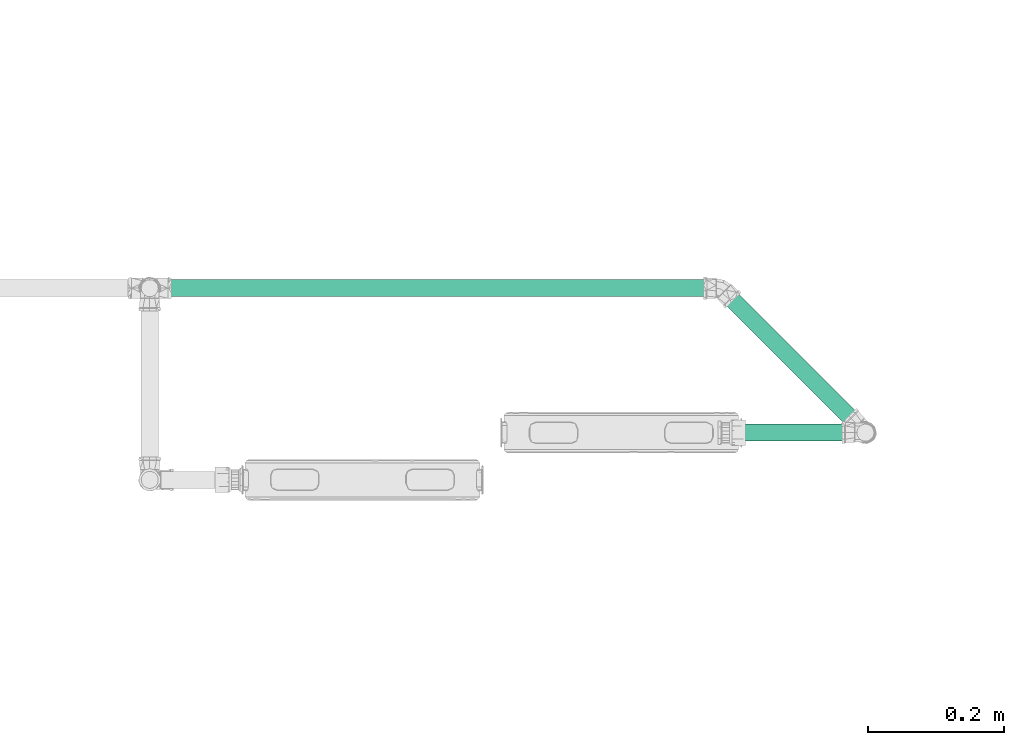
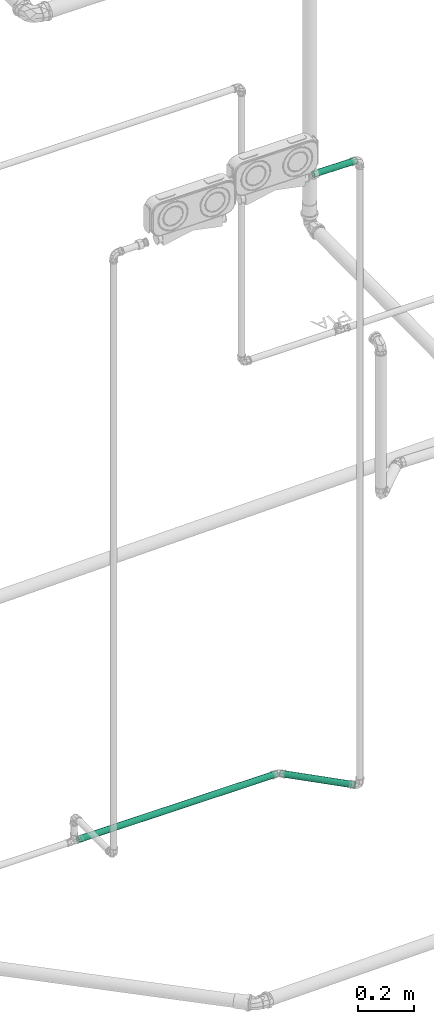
# One storey, part 238 of 589: 3 flow segments.
"""IFC2X3 building model written with IfcOpenShell, lengths in millimetres."""

import ifcopenshell
import ifcopenshell.guid

model = None  # the IFC model being written
_history = None  # IfcOwnerHistory: only IFC2X3 demands one
_inside = {}  # id of a spatial element -> (the spatial element, [elements in it])
_under = {}  # id of a project, library or spatial element -> (it, [spatial elements below it])
_declared = {}  # id of a project -> (the project, [libraries it declares])
_typed = {}  # id of a type object -> (the type object, [elements of that type])
_made_of = {}  # id of a material, layer set ... -> (it, [elements and type objects made of it])


def new_model(schema):
    """Start an empty IFC model of exactly this schema.

    Asked for "IFC4X3", IfcOpenShell would pick the latest addendum, in which some entities
    have other attributes; the version numbers below select the first issue.
    IFC2X3 requires an IfcOwnerHistory on every rooted entity: one is made here for all.
    """
    global model, _history
    if schema == "IFC4X3":
        model = ifcopenshell.file(schema_version=(4, 3, 0, 0))
    else:
        model = ifcopenshell.file(schema=schema)
    _inside.clear()
    _under.clear()
    _declared.clear()
    _typed.clear()
    _made_of.clear()
    _history = None
    if model.schema == "IFC2X3":
        org = make("IfcOrganization", Name="unknown")
        user = make(
            "IfcPersonAndOrganization",
            ThePerson=make("IfcPerson", FamilyName="unknown"),
            TheOrganization=org,
        )
        app = make(
            "IfcApplication",
            ApplicationDeveloper=org,
            Version="unknown",
            ApplicationFullName="unknown",
            ApplicationIdentifier="unknown",
        )
        _history = make(
            "IfcOwnerHistory",
            OwningUser=user,
            OwningApplication=app,
            ChangeAction="ADDED",
            CreationDate=0,
        )
    return model


def make(cls, **values):
    """One entity of the class cls with the attributes given. An attribute that is None is left unset."""
    return model.create_entity(
        cls, **{name: value for name, value in values.items() if value is not None}
    )


def entity(cls, *values):
    """Any entity or typed value of the class cls, its attributes in the order of the schema. None: left unset."""
    e = model.create_entity(cls)
    for i, value in enumerate(values):
        if value is not None:
            e[i] = value
    return e


def rooted(cls, **values):
    """An entity with a GlobalId (a new one), such as an element, a storey or a relation."""
    return make(cls, GlobalId=ifcopenshell.guid.new(), OwnerHistory=_history, **values)


def si_unit(unit_type, name, prefix=None):
    """IfcSIUnit, for example si_unit("LENGTHUNIT", "METRE", prefix="MILLI")."""
    return make("IfcSIUnit", UnitType=unit_type, Prefix=prefix, Name=name)


def converted_unit(unit_type, name, factor, base, dimensions=None, offset=None):
    """IfcConversionBasedUnit, such as the inch: factor (a typed value) times the base unit."""
    return make(
        "IfcConversionBasedUnit"
        if offset is None
        else "IfcConversionBasedUnitWithOffset",
        ConversionOffset=offset,
        Dimensions=None
        if dimensions is None
        else entity("IfcDimensionalExponents", *dimensions),
        UnitType=unit_type,
        Name=name,
        ConversionFactor=make(
            "IfcMeasureWithUnit", ValueComponent=factor, UnitComponent=base
        ),
    )


def derived_unit(unit_type, elements):
    """IfcDerivedUnit: a product of units, each with its exponent."""
    return make(
        "IfcDerivedUnit",
        Elements=[
            make("IfcDerivedUnitElement", Unit=unit, Exponent=power)
            for unit, power in elements
        ],
        UnitType=unit_type,
    )


def assignment(units):
    """IfcUnitAssignment: the units of a project."""
    return None if units is None else make("IfcUnitAssignment", Units=units)


def point(xyz):
    """IfcCartesianPoint."""
    return None if xyz is None else make("IfcCartesianPoint", Coordinates=xyz)


def direction(xyz):
    """IfcDirection."""
    return None if xyz is None else make("IfcDirection", DirectionRatios=xyz)


def frame(location, z_axis=None, x_axis=None):
    """IfcAxis2Placement3D, a coordinate frame: its origin and axes. An axis left out is left unset."""
    return make(
        "IfcAxis2Placement3D",
        Location=point(location),
        Axis=direction(z_axis),
        RefDirection=direction(x_axis),
    )


def frame_2d(location, x_axis=None):
    """IfcAxis2Placement2D, a coordinate frame in the plane: its origin and x axis."""
    return make(
        "IfcAxis2Placement2D", Location=point(location), RefDirection=direction(x_axis)
    )


def origin():
    """The frame at (0, 0, 0) with its axes left unset."""
    return frame((0.0, 0.0, 0.0))


def place(relative_to, where):
    """IfcLocalPlacement: puts the frame where relative to a parent placement (None: the world)."""
    return make(
        "IfcLocalPlacement", PlacementRelTo=relative_to, RelativePlacement=where
    )


def context(
    kind, dimensions, precision=None, world=None, true_north=None, identifier=None
):
    """IfcGeometricRepresentationContext, for example the 3D "Model" context."""
    return make(
        "IfcGeometricRepresentationContext",
        ContextIdentifier=identifier,
        ContextType=kind,
        CoordinateSpaceDimension=dimensions,
        Precision=precision,
        WorldCoordinateSystem=world,
        TrueNorth=true_north,
    )


def subcontext(parent, identifier, kind, view, scale=None):
    """IfcGeometricRepresentationSubContext, for example "Body" below "Model"."""
    return make(
        "IfcGeometricRepresentationSubContext",
        ContextIdentifier=identifier,
        ContextType=kind,
        ParentContext=parent,
        TargetScale=scale,
        TargetView=view,
    )


def project(units=None, contexts=None):
    """IfcProject with its units and contexts."""
    return rooted(
        "IfcProject",
        Name="project",
        RepresentationContexts=contexts,
        UnitsInContext=assignment(units),
    )


def spatial(cls, under=None, at=None, **own):
    """A site, building, storey or space (cls), placed at a placement, below another one or the project."""
    s = rooted(cls, ObjectPlacement=at, **own)
    if under is not None:
        _under.setdefault(under.id(), (under, []))[1].append(s)
    return s


def profile(cls, at=None, kind="AREA", **sizes):
    """A parametric profile (cls). Its sizes go by their IFC names, for example OverallWidth=200.0."""
    return make(cls, ProfileType=kind, Position=at, **sizes)


def circle(**sizes):
    """IfcCircleProfileDef."""
    return profile("IfcCircleProfileDef", **sizes)


def extrude(swept, where, along, depth):
    """IfcExtrudedAreaSolid: the profile swept, set in the frame where, extruded along a direction by depth."""
    return make(
        "IfcExtrudedAreaSolid",
        SweptArea=swept,
        Position=where,
        ExtrudedDirection=direction(along),
        Depth=depth,
    )


def shape(context_of_items, identifier, shape_type, items):
    """IfcShapeRepresentation: the items that make up one representation, for example the "Body"."""
    return make(
        "IfcShapeRepresentation",
        ContextOfItems=context_of_items,
        RepresentationIdentifier=identifier,
        RepresentationType=shape_type,
        Items=items,
    )


def made_of(thing, what):
    """Note that an element or type object is made of a material, layer set ...; save() writes the relation."""
    if what is not None:
        _made_of.setdefault(what.id(), (what, []))[1].append(thing)
    return thing


def type_object(cls, material=None, **own):
    """A type object (cls), such as IfcWallType, which elements share."""
    return made_of(rooted(cls, **own), material)


def element(
    cls,
    number,
    at=None,
    inside=None,
    cuts=None,
    type_object=None,
    material=None,
    context=None,
    identifier="Body",
    shape_type=None,
    held_by="IfcProductDefinitionShape",
    body=None,
    shapes=None,
    **own,
):
    """One element of the class cls, such as IfcWall. Its Tag is "e" and its number.

    at: its placement. inside: the storey or other place that contains it. cuts: it is an
    opening in that element (IfcRelVoidsElement). A single representation is given by context,
    identifier, shape_type and body (its items); several are given by shapes. held_by: the class
    of the entity that holds the representations. save() writes the other relations.
    """
    e = rooted(cls, Tag="e%d" % number, ObjectPlacement=at, **own)
    if body is not None:
        shapes = [shape(context, identifier, shape_type, body)]
    if shapes is not None:
        e.Representation = make(held_by, Representations=shapes)
    if inside is not None:
        _inside.setdefault(inside.id(), (inside, []))[1].append(e)
    if cuts is not None:
        rooted(
            "IfcRelVoidsElement", RelatingBuildingElement=cuts, RelatedOpeningElement=e
        )
    if type_object is not None:
        _typed.setdefault(type_object.id(), (type_object, []))[1].append(e)
    return made_of(e, material)


def aggregate(whole, parts):
    """IfcRelAggregates: a whole, such as a stair, and the parts it consists of."""
    return rooted("IfcRelAggregates", RelatingObject=whole, RelatedObjects=parts)


def save(model, path):
    """Write the relations noted so far, then the file.

    IfcRelAggregates (storeys below a building ...), IfcRelContainedInSpatialStructure (elements
    in a storey), IfcRelDefinesByType, IfcRelAssociatesMaterial and IfcRelDeclares: one each for
    every whole, place, type object, material and project.
    """
    for whole, parts in _under.values():
        aggregate(whole, parts)
    for where, things in _inside.values():
        rooted(
            "IfcRelContainedInSpatialStructure",
            RelatedElements=things,
            RelatingStructure=where,
        )
    for kind, things in _typed.values():
        rooted("IfcRelDefinesByType", RelatedObjects=things, RelatingType=kind)
    for what, things in _made_of.values():
        rooted("IfcRelAssociatesMaterial", RelatedObjects=things, RelatingMaterial=what)
    for by, libraries in _declared.values():
        rooted("IfcRelDeclares", RelatingContext=by, RelatedDefinitions=libraries)
    model.write(path)


model = new_model("IFC2X3")

# Units and contexts
model_context = context("Model", 3, precision=0.01, world=origin(), true_north=direction((6.123031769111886e-17, 1.0)))
body_context = subcontext(model_context, "Body", "Model", "MODEL_VIEW")
ifc_project = project(units=[si_unit("LENGTHUNIT", "METRE", prefix="MILLI"), si_unit("AREAUNIT", "SQUARE_METRE"), si_unit("VOLUMEUNIT", "CUBIC_METRE"), converted_unit("PLANEANGLEUNIT", "DEGREE", entity("IfcRatioMeasure", 0.017453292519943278), si_unit("PLANEANGLEUNIT", "RADIAN"), dimensions=[0, 0, 0, 0, 0, 0, 0]), si_unit("MASSUNIT", "GRAM", prefix="KILO"), derived_unit("MASSDENSITYUNIT", [(si_unit("MASSUNIT", "GRAM", prefix="KILO"), 1), (si_unit("LENGTHUNIT", "METRE"), -3)]), derived_unit("IONCONCENTRATIONUNIT", [(si_unit("MASSUNIT", "GRAM", prefix="KILO"), 1), (si_unit("LENGTHUNIT", "METRE"), -3)]), derived_unit("MOMENTOFINERTIAUNIT", [(si_unit("LENGTHUNIT", "METRE"), 4)]), si_unit("TIMEUNIT", "SECOND"), si_unit("FREQUENCYUNIT", "HERTZ"), si_unit("THERMODYNAMICTEMPERATUREUNIT", "DEGREE_CELSIUS"), derived_unit("THERMALTRANSMITTANCEUNIT", [(si_unit("MASSUNIT", "GRAM", prefix="KILO"), 1), (si_unit("THERMODYNAMICTEMPERATUREUNIT", "KELVIN"), -1), (si_unit("TIMEUNIT", "SECOND"), -3)]), derived_unit("THERMALCONDUCTANCEUNIT", [(si_unit("MASSUNIT", "GRAM", prefix="KILO"), 1), (si_unit("THERMODYNAMICTEMPERATUREUNIT", "KELVIN"), -1), (si_unit("TIMEUNIT", "SECOND"), -3), (si_unit("LENGTHUNIT", "METRE"), 1)]), derived_unit("VOLUMETRICFLOWRATEUNIT", [(si_unit("LENGTHUNIT", "METRE"), 3), (si_unit("TIMEUNIT", "SECOND"), -1)]), derived_unit("MASSFLOWRATEUNIT", [(si_unit("MASSUNIT", "GRAM", prefix="KILO"), 1), (si_unit("TIMEUNIT", "SECOND"), -1)]), derived_unit("ROTATIONALFREQUENCYUNIT", [(si_unit("TIMEUNIT", "SECOND"), -1)]), si_unit("ELECTRICCURRENTUNIT", "AMPERE"), si_unit("ELECTRICVOLTAGEUNIT", "VOLT"), si_unit("POWERUNIT", "WATT"), si_unit("FORCEUNIT", "NEWTON", prefix="KILO"), si_unit("ILLUMINANCEUNIT", "LUX"), si_unit("LUMINOUSFLUXUNIT", "LUMEN"), si_unit("LUMINOUSINTENSITYUNIT", "CANDELA"), derived_unit("USERDEFINED", [(si_unit("MASSUNIT", "GRAM", prefix="KILO"), -1), (si_unit("LENGTHUNIT", "METRE"), -2), (si_unit("TIMEUNIT", "SECOND"), 3), (si_unit("LUMINOUSFLUXUNIT", "LUMEN"), 1)]), derived_unit("USERDEFINED", [(si_unit("MASSUNIT", "GRAM", prefix="KILO"), 1), (si_unit("TIMEUNIT", "SECOND"), -3), (si_unit("LENGTHUNIT", "METRE"), 3), (si_unit("ELECTRICCURRENTUNIT", "AMPERE"), -2)]), derived_unit("SOUNDPOWERUNIT", [(si_unit("MASSUNIT", "GRAM", prefix="KILO"), 1), (si_unit("TIMEUNIT", "SECOND"), -3), (si_unit("LENGTHUNIT", "METRE"), 2)]), derived_unit("SOUNDPRESSUREUNIT", [(si_unit("MASSUNIT", "GRAM", prefix="KILO"), 1), (si_unit("LENGTHUNIT", "METRE"), -1), (si_unit("TIMEUNIT", "SECOND"), -2)]), derived_unit("LINEARVELOCITYUNIT", [(si_unit("LENGTHUNIT", "METRE"), 1), (si_unit("TIMEUNIT", "SECOND"), -1)]), si_unit("PRESSUREUNIT", "PASCAL"), derived_unit("USERDEFINED", [(si_unit("MASSUNIT", "GRAM", prefix="KILO"), 1), (si_unit("LENGTHUNIT", "METRE"), -2), (si_unit("TIMEUNIT", "SECOND"), -2)]), derived_unit("LINEARFORCEUNIT", [(si_unit("MASSUNIT", "GRAM", prefix="KILO"), 1), (si_unit("TIMEUNIT", "SECOND"), -2)]), derived_unit("PLANARFORCEUNIT", [(si_unit("MASSUNIT", "GRAM", prefix="KILO"), 1), (si_unit("LENGTHUNIT", "METRE"), -1), (si_unit("TIMEUNIT", "SECOND"), -2)]), derived_unit("SPECIFICHEATCAPACITYUNIT", [(si_unit("THERMODYNAMICTEMPERATUREUNIT", "KELVIN"), -1), (si_unit("LENGTHUNIT", "METRE"), 2), (si_unit("TIMEUNIT", "SECOND"), -2)]), derived_unit("HEATINGVALUEUNIT", [(si_unit("LENGTHUNIT", "METRE"), 2), (si_unit("TIMEUNIT", "SECOND"), -2)]), derived_unit("VAPORPERMEABILITYUNIT", [(si_unit("LENGTHUNIT", "METRE"), -1), (si_unit("TIMEUNIT", "SECOND"), 1)]), derived_unit("DYNAMICVISCOSITYUNIT", [(si_unit("MASSUNIT", "GRAM", prefix="KILO"), 1), (si_unit("TIMEUNIT", "SECOND"), -1), (si_unit("LENGTHUNIT", "METRE"), -1)]), derived_unit("THERMALEXPANSIONCOEFFICIENTUNIT", [(si_unit("THERMODYNAMICTEMPERATUREUNIT", "KELVIN"), -1)]), derived_unit("MODULUSOFELASTICITYUNIT", [(si_unit("MASSUNIT", "GRAM", prefix="KILO"), 1), (si_unit("LENGTHUNIT", "METRE"), -1), (si_unit("TIMEUNIT", "SECOND"), -2)]), derived_unit("ISOTHERMALMOISTURECAPACITYUNIT", [(si_unit("LENGTHUNIT", "METRE"), 3), (si_unit("MASSUNIT", "GRAM", prefix="KILO"), -1)]), derived_unit("MOISTUREDIFFUSIVITYUNIT", [(si_unit("TIMEUNIT", "SECOND"), -1), (si_unit("LENGTHUNIT", "METRE"), 2)])], contexts=[model_context])

# Site, building, storey
site_placement = place(None, origin())
site = spatial("IfcSite", under=ifc_project, at=site_placement, Name="Default", CompositionType="ELEMENT")
building_placement = place(site_placement, origin())
building = spatial("IfcBuilding", under=site, at=building_placement, CompositionType="ELEMENT")
storey_placement = place(building_placement, frame((0.0, 0.0, 100.0)))
storey = spatial("IfcBuildingStorey", under=building, at=storey_placement, Name="TÉRREO", CompositionType="ELEMENT", Elevation=100.0)

# Flow segments
pipe_segment_type = type_object("IfcPipeSegmentType", Name="Tipos de tubos:PVC Marrom Soldável", PredefinedType="NOTDEFINED")
flow_segment_1_placement = place(storey_placement, origin())
element("IfcFlowSegment", 1, at=flow_segment_1_placement, inside=storey, type_object=pipe_segment_type, Name="Tipos de tubos:PVC Marrom Soldável", ObjectType="Tipos de tubos:PVC Marrom Soldável", context=body_context, shape_type="SweptSolid", body=[
    extrude(circle(Radius=12.5, at=frame_2d((4.785592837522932e-14, -2.5379698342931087e-14), x_axis=(1.0, 0.0))), frame((555.9548116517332, 1763.8026586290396, -144.67096473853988), z_axis=(0.707114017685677, -0.7070995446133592, 0.0), x_axis=(0.7070995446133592, 0.707114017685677, 0.0)), (0.0, 0.0, 1.0), 275.88539947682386),
])
flow_segment_2_placement = place(storey_placement, origin())
element("IfcFlowSegment", 2, at=flow_segment_2_placement, inside=storey, type_object=pipe_segment_type, Name="Tipos de tubos:PVC Marrom Soldável", ObjectType="Tipos de tubos:PVC Marrom Soldável", context=body_context, shape_type="SweptSolid", body=[
    extrude(circle(Radius=12.5, at=frame_2d((0.0, -5.414064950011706e-13), x_axis=(1.0, 0.0))), frame((746.3071959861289, 1556.988167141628, 2576.4399682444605), z_axis=(-0.9999500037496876, 0.0, 0.009999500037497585), x_axis=(0.0, -1.0, 0.0)), (0.0, 0.0, 1.0), 175.97997709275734),
])
flow_segment_3_placement = place(storey_placement, origin())
element("IfcFlowSegment", 3, at=flow_segment_3_placement, inside=storey, type_object=pipe_segment_type, Name="Tipos de tubos:PVC Marrom Soldável", ObjectType="Tipos de tubos:PVC Marrom Soldável", context=body_context, shape_type="SweptSolid", body=[
    extrude(circle(Radius=12.5, at=frame_2d((0.0, -8.459899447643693e-15), x_axis=(1.0, 0.0))), frame((-272.4439990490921, 1769.1202008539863, -144.67096473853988), z_axis=(1.0, 0.0, 0.0), x_axis=(0.0, 1.0, 0.0)), (0.0, 0.0, 1.0), 815.560942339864),
])

save(model, "model.ifc")
